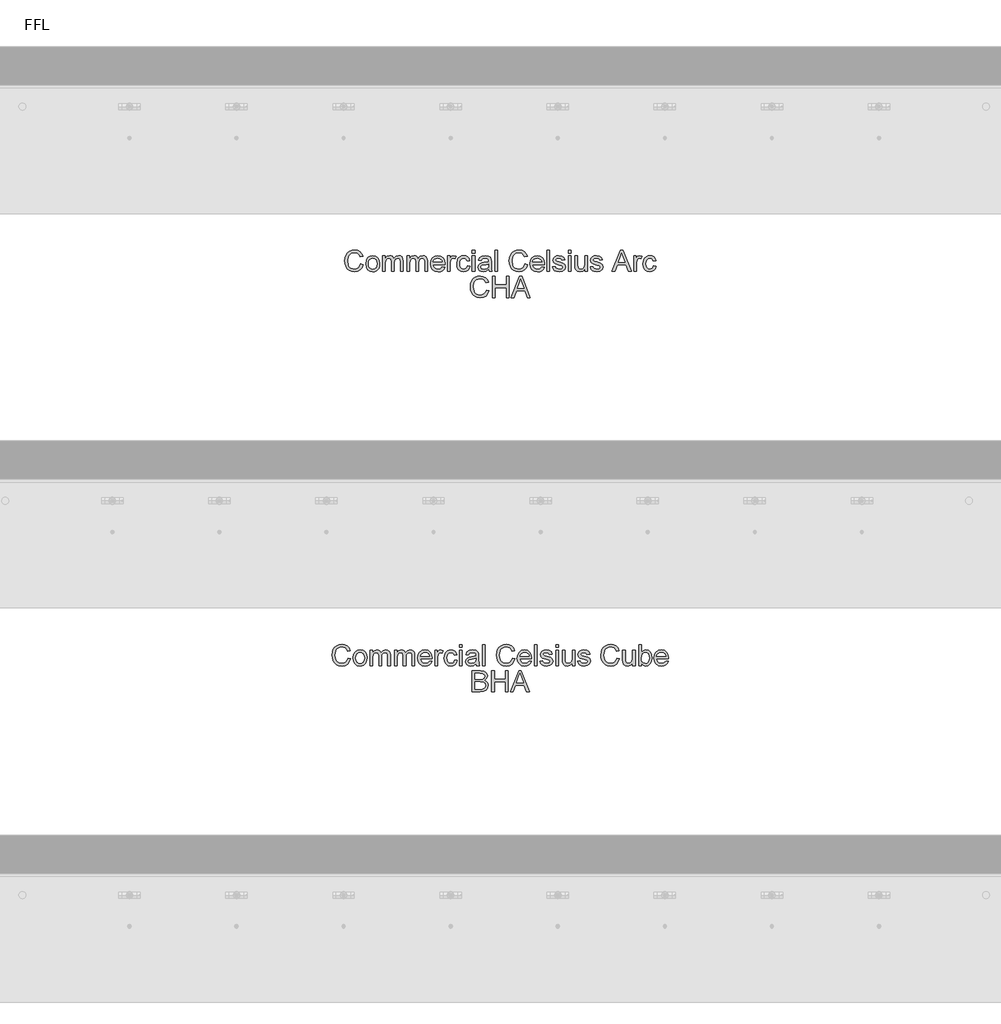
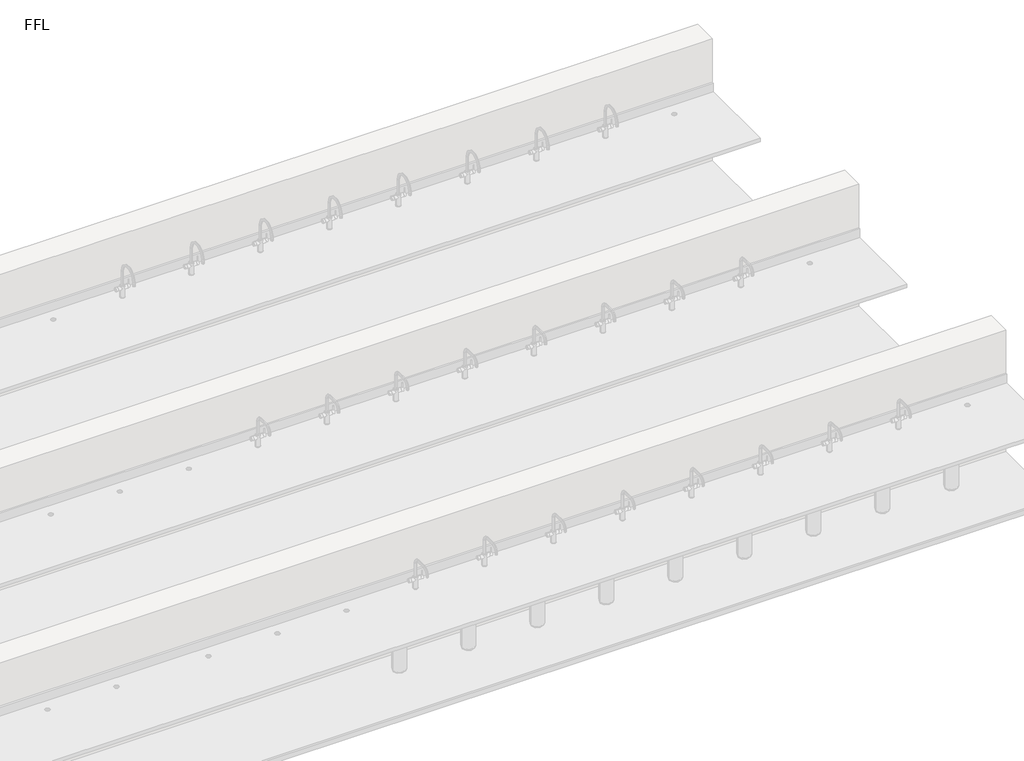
# One storey, part 8 of 9: 2 proxies.
"""IFC4 building model written with IfcOpenShell, lengths in millimetres."""

from ifc_helpers import new_model, si_unit, origin, origin_with_axes, place, context, project, spatial, polyline, outline, extrude, element, save

model = new_model("IFC4")

# Units and contexts
model_context = context("Model", 3, world=origin())
ifc_project = project(units=[si_unit("LENGTHUNIT", "METRE", prefix="MILLI")], contexts=[model_context])

# Site, building, storey
site = spatial("IfcSite", under=ifc_project)
building = spatial("IfcBuilding", under=site)
storey = spatial("IfcBuildingStorey", under=building, Name="FFL", Elevation=0.0)

# Proxies
placement = place(None, origin())
element("IfcBuildingElementProxy", 1, Name="150mm Arial", ObjectType="150mm Arial", at=placement, inside=storey, context=model_context, shape_type="SweptSolid", body=[
    extrude(outline(polyline([(6649.110861, 3836.3018309), (6667.5723994, 3831.5422155), (6659.0537696, 3810.0292948), (6645.6853802, 3794.3126482), (6628.1252841, 3784.698766), (6607.0315341, 3781.4941386), (6585.617772, 3783.9190184), (6568.6120629, 3791.1936578), (6555.5772071, 3803.065653), (6546.0760052, 3819.2826001), (6540.275224, 3838.3481049), (6538.3416302, 3858.7657732), (6540.5276278, 3880.3012299), (6547.0856206, 3898.8979847), (6557.6730605, 3913.9655929), (6571.9473994, 3924.9136097), (6588.876486, 3931.5797756), (6607.4281687, 3933.8018309), (6627.6700557, 3930.9262299), (6644.4053321, 3922.299427), (6657.1111615, 3908.4532732), (6665.2647071, 3889.9196193), (6646.8031687, 3885.5205809), (6640.4029283, 3898.9836217), (6631.6589379, 3908.2188982), (6620.4630244, 3913.5599439), (6606.7070148, 3915.3402924), (6590.8506446, 3913.3661338), (6577.8248033, 3907.4436578), (6567.9404884, 3898.1948597), (6561.5086975, 3886.2417347), (6556.8031687, 3858.8018309), (6562.3740821, 3826.9989463), (6569.4954764, 3815.1224439), (6579.7178321, 3806.6804367), (6591.9729403, 3801.6368669), (6605.1925917, 3799.955677), (6620.602748, 3802.2453405), (6633.4437937, 3809.1143309), (6643.1388057, 3820.4905328), (6649.110861, 3836.3018309)])), origin_with_axes(), (0.0, 0.0, 1.0), 5.0),
    extrude(outline(polyline([(6686.0339379, 3838.0326001), (6690.0273273, 3864.1834415), (6702.0074956, 3882.5638501), (6716.8091783, 3891.5692588), (6734.5315341, 3894.5710617), (6753.9260653, 3890.9157131), (6769.4173514, 3879.9496674), (6779.572099, 3862.5383092), (6782.9570148, 3839.5470232), (6781.4606206, 3820.8961818), (6776.9714379, 3806.6984655), (6769.6201759, 3796.0659535), (6759.5375437, 3788.1107251), (6747.5618826, 3783.1482852), (6734.5315341, 3781.4941386), (6714.9026278, 3785.1359655), (6699.4293706, 3796.0614463), (6689.3827961, 3813.8378886), (6686.0339379, 3838.0326001)]), holes=[polyline([(6704.4954764, 3838.0686578), (6706.6318946, 3821.3604246), (6713.0411494, 3809.456879), (6722.6865821, 3802.3309775), (6734.5315341, 3799.955677), (6746.3223994, 3802.3444992), (6755.9498033, 3809.5109655), (6762.3590581, 3821.5722636), (6764.4954764, 3838.6455809), (6762.3455365, 3854.8670352), (6755.8957167, 3866.6083213), (6746.2547913, 3873.7342227), (6734.5315341, 3876.1095232), (6722.6865821, 3873.7432371), (6713.0411494, 3866.644379), (6706.6318946, 3854.7678766), (6704.4954764, 3838.0686578)])]), origin_with_axes(), (0.0, 0.0, 1.0), 5.0),
    extrude(outline(polyline([(6803.7262456, 3783.8018309), (6803.7262456, 3892.2633693), (6822.1877841, 3892.2633693), (6822.1877841, 3874.4148117), (6834.8800917, 3889.0362059), (6852.9449956, 3894.5710617), (6863.2124235, 3893.1603044), (6871.4425917, 3888.9280328), (6881.610861, 3873.1167347), (6896.0159091, 3889.2074799), (6914.2070148, 3894.5710617), (6928.0847191, 3892.3399919), (6938.3476398, 3885.6467828), (6944.6892865, 3874.3111458), (6946.8031687, 3858.1527924), (6946.8031687, 3783.8018309), (6928.3416302, 3783.8018309), (6928.3416302, 3850.2201001), (6926.6288898, 3865.6347636), (6920.4269667, 3873.2249078), (6909.8800917, 3876.1095232), (6899.8785893, 3874.2615665), (6891.7250437, 3868.7176963), (6886.3028682, 3859.0993068), (6884.4954764, 3845.0277924), (6884.4954764, 3783.8018309), (6866.0339379, 3783.8018309), (6866.0339379, 3852.2753886), (6861.7611014, 3870.160004), (6856.1225797, 3874.6221434), (6847.7526879, 3876.1095232), (6834.0868225, 3872.143177), (6825.0002841, 3860.5326001), (6822.1877841, 3838.5013501), (6822.1877841, 3783.8018309), (6803.7262456, 3783.8018309)])), origin_with_axes(), (0.0, 0.0, 1.0), 5.0),
    extrude(outline(polyline([(6974.4954764, 3783.8018309), (6974.4954764, 3892.2633693), (6992.9570148, 3892.2633693), (6992.9570148, 3874.4148117), (7005.6493225, 3889.0362059), (7023.7142264, 3894.5710617), (7033.9816542, 3893.1603044), (7042.2118225, 3888.9280328), (7052.3800917, 3873.1167347), (7066.7851398, 3889.2074799), (7084.9762456, 3894.5710617), (7098.8539499, 3892.3399919), (7109.1168706, 3885.6467828), (7115.4585172, 3874.3111458), (7117.5723994, 3858.1527924), (7117.5723994, 3783.8018309), (7099.110861, 3783.8018309), (7099.110861, 3850.2201001), (7097.3981206, 3865.6347636), (7091.1961975, 3873.2249078), (7080.6493225, 3876.1095232), (7070.6478201, 3874.2615665), (7062.4942744, 3868.7176963), (7057.072099, 3859.0993068), (7055.2647071, 3845.0277924), (7055.2647071, 3783.8018309), (7036.8031687, 3783.8018309), (7036.8031687, 3852.2753886), (7032.5303321, 3870.160004), (7026.8918105, 3874.6221434), (7018.5219187, 3876.1095232), (7004.8560533, 3872.143177), (6995.7695148, 3860.5326001), (6992.9570148, 3838.5013501), (6992.9570148, 3783.8018309), (6974.4954764, 3783.8018309)])), origin_with_axes(), (0.0, 0.0, 1.0), 5.0),
    extrude(outline(polyline([(7221.2022071, 3816.1095232), (7239.3031687, 3813.8018309), (7232.7812336, 3800.1630088), (7222.3740821, 3789.9676963), (7208.3160893, 3783.612528), (7190.8416302, 3781.4941386), (7169.1799716, 3785.1494871), (7152.5123033, 3796.1155328), (7141.8842985, 3813.6801362), (7138.3416302, 3837.1311578), (7141.9203562, 3861.3709415), (7152.6565341, 3879.4989463), (7169.0988417, 3890.8030328), (7189.7959571, 3894.5710617), (7209.8485413, 3890.8120472), (7225.8716783, 3879.535004), (7236.3779884, 3861.4430568), (7239.8800917, 3837.2393309), (7239.7719187, 3832.2633693), (7156.8031687, 3832.2633693), (7159.9987816, 3818.4442588), (7167.4221591, 3808.285004), (7178.1358009, 3802.0380088), (7191.2022071, 3799.955677), (7209.3031687, 3803.8138501), (7221.2022071, 3816.1095232)]), holes=[polyline([(7156.8031687, 3850.7249078), (7221.4185533, 3850.7249078), (7218.9215581, 3860.4785136), (7214.0267264, 3867.455677), (7203.2635052, 3873.9460617), (7189.7238417, 3876.1095232), (7177.2794307, 3874.3832612), (7166.9894667, 3869.2044751), (7159.836522, 3861.1320592), (7156.8031687, 3850.7249078)])]), origin_with_axes(), (0.0, 0.0, 1.0), 5.0),
    extrude(outline(polyline([(7258.3416302, 3783.8018309), (7258.3416302, 3892.2633693), (7274.4954764, 3892.2633693), (7274.4954764, 3876.2176963), (7285.9618225, 3891.0013501), (7297.5002841, 3894.5710617), (7316.0339379, 3888.8739463), (7309.8680725, 3872.3234655), (7296.8873033, 3876.1095232), (7286.4486014, 3872.4676963), (7279.7959571, 3862.3715424), (7276.8031687, 3840.8090424), (7276.8031687, 3783.8018309), (7258.3416302, 3783.8018309)])), origin_with_axes(), (0.0, 0.0, 1.0), 5.0),
    extrude(outline(polyline([(7396.8031687, 3823.0326001), (7415.2647071, 3820.7249078), (7410.1174716, 3804.3051362), (7400.4449956, 3791.8967828), (7387.157736, 3784.0947996), (7371.1661494, 3781.4941386), (7351.5282288, 3785.1224439), (7336.1721591, 3796.0073597), (7326.2608009, 3813.6711217), (7322.9570148, 3837.6359655), (7328.6000437, 3868.3030328), (7335.7214379, 3879.8009294), (7345.7995629, 3888.0085617), (7357.8563538, 3892.9304367), (7370.9137456, 3894.5710617), (7386.5132047, 3892.3174559), (7398.9846591, 3885.5566386), (7407.931474, 3874.6491867), (7412.9570148, 3859.955677), (7394.4954764, 3857.6479847), (7385.9317744, 3871.4761097), (7371.0579764, 3876.1095232), (7359.1273874, 3873.8288742), (7349.657736, 3866.986927), (7343.478349, 3855.2140905), (7341.4185533, 3838.1407732), (7343.4332768, 3820.8375881), (7349.4774475, 3809.0241867), (7358.7758249, 3802.2228044), (7370.5531687, 3799.955677), (7380.1129643, 3801.3709415), (7387.9510052, 3805.6167347), (7393.6526278, 3812.8012299), (7396.8031687, 3823.0326001)])), origin_with_axes(), (0.0, 0.0, 1.0), 5.0),
    extrude(outline(polyline([(7431.4185533, 3913.0326001), (7431.4185533, 3931.4941386), (7449.8800917, 3931.4941386), (7449.8800917, 3913.0326001), (7431.4185533, 3913.0326001)])), origin_with_axes(), (0.0, 0.0, 1.0), 5.0),
    extrude(outline(polyline([(7431.4185533, 3783.8018309), (7431.4185533, 3892.2633693), (7449.8800917, 3892.2633693), (7449.8800917, 3783.8018309), (7431.4185533, 3783.8018309)])), origin_with_axes(), (0.0, 0.0, 1.0), 5.0),
    extrude(outline(polyline([(7546.8031687, 3797.6479847), (7528.9005244, 3785.1359655), (7509.1228802, 3781.4941386), (7493.6946951, 3783.6846434), (7482.313986, 3790.2561578), (7475.2962576, 3800.2351242), (7472.9570148, 3812.6479847), (7476.4906687, 3827.2513501), (7485.7755244, 3837.8523117), (7498.7022071, 3843.910004), (7514.6757648, 3846.6864463), (7546.6949956, 3853.0326001), (7546.8031687, 3857.143177), (7545.532135, 3865.3823597), (7541.7190341, 3870.7729847), (7533.1913898, 3874.7753886), (7521.3103802, 3876.1095232), (7502.6324956, 3872.5578405), (7493.7262456, 3859.955677), (7475.2647071, 3862.2633693), (7483.251486, 3880.2922155), (7499.3332167, 3890.8571193), (7523.6901879, 3894.5710617), (7546.063986, 3891.2898117), (7558.7022071, 3883.050629), (7564.3632648, 3870.5205809), (7565.2647071, 3854.3667347), (7565.2647071, 3831.3979847), (7566.2022071, 3799.3246674), (7569.8800917, 3783.8018309), (7551.4185533, 3783.8018309), (7546.8031687, 3797.6479847)]), holes=[polyline([(7546.8031687, 3834.5710617), (7517.0195148, 3828.910004), (7501.1361014, 3825.9172155), (7493.9425917, 3821.049427), (7491.4185533, 3813.9460617), (7496.9173514, 3803.9580809), (7513.0531687, 3799.955677), (7531.7310533, 3804.3727443), (7543.7743225, 3815.0638501), (7546.6949956, 3829.3426963), (7546.8031687, 3834.5710617)])]), origin_with_axes(), (0.0, 0.0, 1.0), 5.0),
    extrude(outline(polyline([(7590.6493225, 3783.8018309), (7590.6493225, 3931.4941386), (7609.110861, 3931.4941386), (7609.110861, 3783.8018309), (7590.6493225, 3783.8018309)])), origin_with_axes(), (0.0, 0.0, 1.0), 5.0),
    extrude(outline(polyline([(7800.6493225, 3836.3018309), (7819.110861, 3831.5422155), (7810.5922312, 3810.0292948), (7797.2238417, 3794.3126482), (7779.6637456, 3784.698766), (7758.5699956, 3781.4941386), (7737.1562336, 3783.9190184), (7720.1505244, 3791.1936578), (7707.1156687, 3803.065653), (7697.6144667, 3819.2826001), (7691.8136855, 3838.3481049), (7689.8800917, 3858.7657732), (7692.0660893, 3880.3012299), (7698.6240821, 3898.8979847), (7709.211522, 3913.9655929), (7723.485861, 3924.9136097), (7740.4149475, 3931.5797756), (7758.9666302, 3933.8018309), (7779.2085172, 3930.9262299), (7795.9437937, 3922.299427), (7808.649623, 3908.4532732), (7816.8031687, 3889.9196193), (7798.3416302, 3885.5205809), (7791.9413898, 3898.9836217), (7783.1973994, 3908.2188982), (7772.001486, 3913.5599439), (7758.2454764, 3915.3402924), (7742.3891062, 3913.3661338), (7729.3632648, 3907.4436578), (7719.4789499, 3898.1948597), (7713.0471591, 3886.2417347), (7708.3416302, 3858.8018309), (7713.9125437, 3826.9989463), (7721.0339379, 3815.1224439), (7731.2562937, 3806.6804367), (7743.5114018, 3801.6368669), (7756.7310533, 3799.955677), (7772.1412095, 3802.2453405), (7784.9822552, 3809.1143309), (7794.6772672, 3820.4905328), (7800.6493225, 3836.3018309)])), origin_with_axes(), (0.0, 0.0, 1.0), 5.0),
    extrude(outline(polyline([(7918.1252841, 3816.1095232), (7936.2262456, 3813.8018309), (7929.7043105, 3800.1630088), (7919.2971591, 3789.9676963), (7905.2391663, 3783.612528), (7887.7647071, 3781.4941386), (7866.1030485, 3785.1494871), (7849.4353802, 3796.1155328), (7838.8073754, 3813.6801362), (7835.2647071, 3837.1311578), (7838.8434331, 3861.3709415), (7849.579611, 3879.4989463), (7866.0219187, 3890.8030328), (7886.7190341, 3894.5710617), (7906.7716182, 3890.8120472), (7922.7947552, 3879.535004), (7933.3010653, 3861.4430568), (7936.8031687, 3837.2393309), (7936.6949956, 3832.2633693), (7853.7262456, 3832.2633693), (7856.9218586, 3818.4442588), (7864.345236, 3808.285004), (7875.0588778, 3802.0380088), (7888.1252841, 3799.955677), (7906.2262456, 3803.8138501), (7918.1252841, 3816.1095232)]), holes=[polyline([(7853.7262456, 3850.7249078), (7918.3416302, 3850.7249078), (7915.844635, 3860.4785136), (7910.9498033, 3867.455677), (7900.1865821, 3873.9460617), (7886.6469187, 3876.1095232), (7874.2025076, 3874.3832612), (7863.9125437, 3869.2044751), (7856.759599, 3861.1320592), (7853.7262456, 3850.7249078)])]), origin_with_axes(), (0.0, 0.0, 1.0), 5.0),
    extrude(outline(polyline([(7955.2647071, 3783.8018309), (7955.2647071, 3931.4941386), (7973.7262456, 3931.4941386), (7973.7262456, 3783.8018309), (7955.2647071, 3783.8018309)])), origin_with_axes(), (0.0, 0.0, 1.0), 5.0),
    extrude(outline(polyline([(7994.4954764, 3816.1095232), (8012.9570148, 3818.4172155), (8015.8686735, 3810.5205809), (8021.5026879, 3804.7152924), (8041.0820148, 3799.955677), (8059.9041302, 3804.3186578), (8066.0339379, 3814.5590424), (8059.8680725, 3822.8523117), (8040.8656687, 3828.1167347), (8013.0651879, 3837.1491867), (8000.9317744, 3847.6960617), (7996.8031687, 3862.5878886), (8000.1204764, 3876.3438982), (8009.1709571, 3886.8547155), (8020.907736, 3892.3174559), (8036.7911494, 3894.5710617), (8059.2550917, 3890.9472636), (8073.5339379, 3881.1395713), (8079.8800917, 3864.5710617), (8061.4185533, 3862.2633693), (8054.4774475, 3872.4496674), (8038.2334571, 3876.1095232), (8020.5651879, 3872.611927), (8015.2647071, 3864.4628886), (8017.4642264, 3859.0902924), (8024.3512456, 3855.0157732), (8040.2526879, 3851.0854847), (8067.3500437, 3842.3955809), (8079.9341783, 3832.5518309), (8084.4954764, 3816.5061578), (8079.1409091, 3798.8378886), (8063.6901879, 3786.019379), (8040.829611, 3781.4941386), (8022.2148273, 3783.675629), (8008.6300917, 3790.2201001), (7999.5615821, 3801.0554367), (7994.4954764, 3816.1095232)])), origin_with_axes(), (0.0, 0.0, 1.0), 5.0),
    extrude(outline(polyline([(8105.2647071, 3783.8018309), (8105.2647071, 3892.2633693), (8123.7262456, 3892.2633693), (8123.7262456, 3783.8018309), (8105.2647071, 3783.8018309)])), origin_with_axes(), (0.0, 0.0, 1.0), 5.0),
    extrude(outline(polyline([(8105.2647071, 3913.0326001), (8105.2647071, 3931.4941386), (8123.7262456, 3931.4941386), (8123.7262456, 3913.0326001), (8105.2647071, 3913.0326001)])), origin_with_axes(), (0.0, 0.0, 1.0), 5.0),
    extrude(outline(polyline([(8220.6493225, 3783.8018309), (8220.6493225, 3802.4436578), (8206.1901879, 3786.7315184), (8187.3320148, 3781.4941386), (8169.970236, 3785.1720232), (8157.9990821, 3794.4027924), (8152.5002841, 3807.9965424), (8151.4185533, 3825.160004), (8151.4185533, 3892.2633693), (8169.8800917, 3892.2633693), (8169.8800917, 3833.8499078), (8170.9978802, 3815.0277924), (8178.2995629, 3803.9761097), (8192.0555725, 3799.955677), (8207.470236, 3804.066254), (8217.6565341, 3815.2621674), (8220.6493225, 3835.8330809), (8220.6493225, 3892.2633693), (8239.110861, 3892.2633693), (8239.110861, 3783.8018309), (8220.6493225, 3783.8018309)])), origin_with_axes(), (0.0, 0.0, 1.0), 5.0),
    extrude(outline(polyline([(8257.5723994, 3816.1095232), (8276.0339379, 3818.4172155), (8278.9455966, 3810.5205809), (8284.579611, 3804.7152924), (8304.1589379, 3799.955677), (8322.9810533, 3804.3186578), (8329.110861, 3814.5590424), (8322.9449956, 3822.8523117), (8303.9425917, 3828.1167347), (8276.142111, 3837.1491867), (8264.0086975, 3847.6960617), (8259.8800917, 3862.5878886), (8263.1973994, 3876.3438982), (8272.2478802, 3886.8547155), (8283.9846591, 3892.3174559), (8299.8680725, 3894.5710617), (8322.3320148, 3890.9472636), (8336.610861, 3881.1395713), (8342.9570148, 3864.5710617), (8324.4954764, 3862.2633693), (8317.5543706, 3872.4496674), (8301.3103802, 3876.1095232), (8283.642111, 3872.611927), (8278.3416302, 3864.4628886), (8280.5411494, 3859.0902924), (8287.4281687, 3855.0157732), (8303.329611, 3851.0854847), (8330.4269667, 3842.3955809), (8343.0111014, 3832.5518309), (8347.5723994, 3816.5061578), (8342.2178321, 3798.8378886), (8326.767111, 3786.019379), (8303.9065341, 3781.4941386), (8285.2917504, 3783.675629), (8271.7070148, 3790.2201001), (8262.6385052, 3801.0554367), (8257.5723994, 3816.1095232)])), origin_with_axes(), (0.0, 0.0, 1.0), 5.0),
    extrude(outline(polyline([(8411.142111, 3783.8018309), (8470.0964379, 3931.4941386), (8485.8175917, 3931.4941386), (8544.7719187, 3783.8018309), (8525.2647071, 3783.8018309), (8508.3536494, 3829.955677), (8447.5243225, 3829.955677), (8430.6493225, 3783.8018309), (8411.142111, 3783.8018309)]), holes=[polyline([(8454.3031687, 3848.4172155), (8501.610861, 3848.4172155), (8488.3055725, 3884.7273117), (8477.9570148, 3913.0326001), (8468.7623033, 3887.9003886), (8454.3031687, 3848.4172155)])]), origin_with_axes(), (0.0, 0.0, 1.0), 5.0),
    extrude(outline(polyline([(8562.1877841, 3783.8018309), (8562.1877841, 3892.2633693), (8578.3416302, 3892.2633693), (8578.3416302, 3876.2176963), (8589.8079764, 3891.0013501), (8601.3464379, 3894.5710617), (8619.8800917, 3888.8739463), (8613.7142264, 3872.3234655), (8600.7334571, 3876.1095232), (8590.2947552, 3872.4676963), (8583.642111, 3862.3715424), (8580.6493225, 3840.8090424), (8580.6493225, 3783.8018309), (8562.1877841, 3783.8018309)])), origin_with_axes(), (0.0, 0.0, 1.0), 5.0),
    extrude(outline(polyline([(8700.6493225, 3823.0326001), (8719.110861, 3820.7249078), (8713.9636254, 3804.3051362), (8704.2911494, 3791.8967828), (8691.0038898, 3784.0947996), (8675.0123033, 3781.4941386), (8655.3743826, 3785.1224439), (8640.0183129, 3796.0073597), (8630.1069547, 3813.6711217), (8626.8031687, 3837.6359655), (8632.4461975, 3868.3030328), (8639.5675917, 3879.8009294), (8649.6457167, 3888.0085617), (8661.7025076, 3892.9304367), (8674.7598994, 3894.5710617), (8690.3593586, 3892.3174559), (8702.8308129, 3885.5566386), (8711.7776278, 3874.6491867), (8716.8031687, 3859.955677), (8698.3416302, 3857.6479847), (8689.7779283, 3871.4761097), (8674.9041302, 3876.1095232), (8662.9735413, 3873.8288742), (8653.5038898, 3866.986927), (8647.3245028, 3855.2140905), (8645.2647071, 3838.1407732), (8647.2794307, 3820.8375881), (8653.3236014, 3809.0241867), (8662.6219788, 3802.2228044), (8674.3993225, 3799.955677), (8683.9591182, 3801.3709415), (8691.7971591, 3805.6167347), (8697.4987816, 3812.8012299), (8700.6493225, 3823.0326001)])), origin_with_axes(), (0.0, 0.0, 1.0), 5.0),
    extrude(outline(polyline([(7529.4954764, 3653.9941386), (7547.9570148, 3649.2345232), (7539.438385, 3627.7216025), (7526.0699956, 3612.0049559), (7508.5098994, 3602.3910737), (7487.4161494, 3599.1864463), (7466.0023874, 3601.6113261), (7448.9966783, 3608.8859655), (7435.9618225, 3620.7579607), (7426.4606206, 3636.9749078), (7420.6598393, 3656.0404126), (7418.7262456, 3676.4580809), (7420.9122432, 3697.9935376), (7427.470236, 3716.5902924), (7438.0576759, 3731.6579006), (7452.3320148, 3742.6059174), (7469.2611014, 3749.2720833), (7487.8127841, 3751.4941386), (7508.0546711, 3748.6185376), (7524.7899475, 3739.9917347), (7537.4957768, 3726.1455809), (7545.6493225, 3707.611927), (7527.1877841, 3703.2128886), (7520.7875437, 3716.6759294), (7512.0435533, 3725.9112059), (7500.8476398, 3731.2522516), (7487.0916302, 3733.0326001), (7471.23526, 3731.0584415), (7458.2094187, 3725.1359655), (7448.3251038, 3715.8871674), (7441.8933129, 3703.9340424), (7437.1877841, 3676.4941386), (7442.7586975, 3644.691254), (7449.8800917, 3632.8147516), (7460.1024475, 3624.3727443), (7472.3575557, 3619.3291746), (7485.5772071, 3617.6479847), (7500.9873634, 3619.9376482), (7513.8284091, 3626.8066386), (7523.5234211, 3638.1828405), (7529.4954764, 3653.9941386)])), origin_with_axes(), (0.0, 0.0, 1.0), 5.0),
    extrude(outline(polyline([(7573.3416302, 3601.4941386), (7573.3416302, 3749.1864463), (7591.8031687, 3749.1864463), (7591.8031687, 3689.1864463), (7670.2647071, 3689.1864463), (7670.2647071, 3749.1864463), (7688.7262456, 3749.1864463), (7688.7262456, 3601.4941386), (7670.2647071, 3601.4941386), (7670.2647071, 3670.7249078), (7591.8031687, 3670.7249078), (7591.8031687, 3601.4941386), (7573.3416302, 3601.4941386)])), origin_with_axes(), (0.0, 0.0, 1.0), 5.0),
    extrude(outline(polyline([(7703.8344187, 3601.4941386), (7762.7887456, 3749.1864463), (7778.5098994, 3749.1864463), (7837.4642264, 3601.4941386), (7817.9570148, 3601.4941386), (7801.0459571, 3647.6479847), (7740.2166302, 3647.6479847), (7723.3416302, 3601.4941386), (7703.8344187, 3601.4941386)]), holes=[polyline([(7746.9954764, 3666.1095232), (7794.3031687, 3666.1095232), (7780.9978802, 3702.4196193), (7770.6493225, 3730.7249078), (7761.454611, 3705.5926963), (7746.9954764, 3666.1095232)])]), origin_with_axes(), (0.0, 0.0, 1.0), 5.0),
])
element("IfcBuildingElementProxy", 2, Name="150mm Arial", ObjectType="150mm Arial", at=placement, inside=storey, context=model_context, shape_type="SweptSolid", body=[
    extrude(outline(polyline([(6560.2647071, 1076.3018309), (6578.7262456, 1071.5422155), (6570.2076158, 1050.0292948), (6556.8392264, 1034.3126482), (6539.2791302, 1024.698766), (6518.1853802, 1021.4941386), (6496.7716182, 1023.9190184), (6479.7659091, 1031.1936578), (6466.7310533, 1043.065653), (6457.2298514, 1059.2826001), (6451.4290701, 1078.3481049), (6449.4954764, 1098.7657732), (6451.681474, 1120.3012299), (6458.2394667, 1138.8979847), (6468.8269066, 1153.9655929), (6483.1012456, 1164.9136097), (6500.0303321, 1171.5797756), (6518.5820148, 1173.8018309), (6538.8239018, 1170.9262299), (6555.5591783, 1162.299427), (6568.2650076, 1148.4532732), (6576.4185533, 1129.9196193), (6557.9570148, 1125.5205809), (6551.5567744, 1138.9836217), (6542.8127841, 1148.2188982), (6531.6168706, 1153.5599439), (6517.860861, 1155.3402924), (6502.0044908, 1153.3661338), (6488.9786494, 1147.4436578), (6479.0943345, 1138.1948597), (6472.6625437, 1126.2417347), (6467.9570148, 1098.8018309), (6473.5279283, 1066.9989463), (6480.6493225, 1055.1224439), (6490.8716783, 1046.6804367), (6503.1267865, 1041.6368669), (6516.3464379, 1039.955677), (6531.7565941, 1042.2453405), (6544.5976398, 1049.1143309), (6554.2926518, 1060.4905328), (6560.2647071, 1076.3018309)])), origin_with_axes(), (0.0, 0.0, 1.0), 5.0),
    extrude(outline(polyline([(6597.1877841, 1078.0326001), (6601.1811735, 1104.1834415), (6613.1613417, 1122.5638501), (6627.9630244, 1131.5692588), (6645.6853802, 1134.5710617), (6665.0799115, 1130.9157131), (6680.5711975, 1119.9496674), (6690.7259451, 1102.5383092), (6694.110861, 1079.5470232), (6692.6144667, 1060.8961818), (6688.1252841, 1046.6984655), (6680.774022, 1036.0659535), (6670.6913898, 1028.1107251), (6658.7157288, 1023.1482852), (6645.6853802, 1021.4941386), (6626.056474, 1025.1359655), (6610.5832167, 1036.0614463), (6600.5366422, 1053.8378886), (6597.1877841, 1078.0326001)]), holes=[polyline([(6615.6493225, 1078.0686578), (6617.7857408, 1061.3604246), (6624.1949956, 1049.456879), (6633.8404283, 1042.3309775), (6645.6853802, 1039.955677), (6657.4762456, 1042.3444992), (6667.1036494, 1049.5109655), (6673.5129042, 1061.5722636), (6675.6493225, 1078.6455809), (6673.4993826, 1094.8670352), (6667.0495629, 1106.6083213), (6657.4086374, 1113.7342227), (6645.6853802, 1116.1095232), (6633.8404283, 1113.7432371), (6624.1949956, 1106.644379), (6617.7857408, 1094.7678766), (6615.6493225, 1078.0686578)])]), origin_with_axes(), (0.0, 0.0, 1.0), 5.0),
    extrude(outline(polyline([(6714.8800917, 1023.8018309), (6714.8800917, 1132.2633693), (6733.3416302, 1132.2633693), (6733.3416302, 1114.4148117), (6746.0339379, 1129.0362059), (6764.0988417, 1134.5710617), (6774.3662696, 1133.1603044), (6782.5964379, 1128.9280328), (6792.7647071, 1113.1167347), (6807.1697552, 1129.2074799), (6825.360861, 1134.5710617), (6839.2385653, 1132.3399919), (6849.501486, 1125.6467828), (6855.8431326, 1114.3111458), (6857.9570148, 1098.1527924), (6857.9570148, 1023.8018309), (6839.4954764, 1023.8018309), (6839.4954764, 1090.2201001), (6837.782736, 1105.6347636), (6831.5808129, 1113.2249078), (6821.0339379, 1116.1095232), (6811.0324355, 1114.2615665), (6802.8788898, 1108.7176963), (6797.4567143, 1099.0993068), (6795.6493225, 1085.0277924), (6795.6493225, 1023.8018309), (6777.1877841, 1023.8018309), (6777.1877841, 1092.2753886), (6772.9149475, 1110.160004), (6767.2764259, 1114.6221434), (6758.9065341, 1116.1095232), (6745.2406687, 1112.143177), (6736.1541302, 1100.5326001), (6733.3416302, 1078.5013501), (6733.3416302, 1023.8018309), (6714.8800917, 1023.8018309)])), origin_with_axes(), (0.0, 0.0, 1.0), 5.0),
    extrude(outline(polyline([(6885.6493225, 1023.8018309), (6885.6493225, 1132.2633693), (6904.110861, 1132.2633693), (6904.110861, 1114.4148117), (6916.8031687, 1129.0362059), (6934.8680725, 1134.5710617), (6945.1355004, 1133.1603044), (6953.3656687, 1128.9280328), (6963.5339379, 1113.1167347), (6977.938986, 1129.2074799), (6996.1300917, 1134.5710617), (7010.0077961, 1132.3399919), (7020.2707167, 1125.6467828), (7026.6123634, 1114.3111458), (7028.7262456, 1098.1527924), (7028.7262456, 1023.8018309), (7010.2647071, 1023.8018309), (7010.2647071, 1090.2201001), (7008.5519667, 1105.6347636), (7002.3500437, 1113.2249078), (6991.8031687, 1116.1095232), (6981.8016663, 1114.2615665), (6973.6481206, 1108.7176963), (6968.2259451, 1099.0993068), (6966.4185533, 1085.0277924), (6966.4185533, 1023.8018309), (6947.9570148, 1023.8018309), (6947.9570148, 1092.2753886), (6943.6841783, 1110.160004), (6938.0456566, 1114.6221434), (6929.6757648, 1116.1095232), (6916.0098994, 1112.143177), (6906.923361, 1100.5326001), (6904.110861, 1078.5013501), (6904.110861, 1023.8018309), (6885.6493225, 1023.8018309)])), origin_with_axes(), (0.0, 0.0, 1.0), 5.0),
    extrude(outline(polyline([(7132.3560533, 1056.1095232), (7150.4570148, 1053.8018309), (7143.9350797, 1040.1630088), (7133.5279283, 1029.9676963), (7119.4699355, 1023.612528), (7101.9954764, 1021.4941386), (7080.3338177, 1025.1494871), (7063.6661494, 1036.1155328), (7053.0381446, 1053.6801362), (7049.4954764, 1077.1311578), (7053.0742023, 1101.3709415), (7063.8103802, 1119.4989463), (7080.2526879, 1130.8030328), (7100.9498033, 1134.5710617), (7121.0023874, 1130.8120472), (7137.0255244, 1119.535004), (7147.5318345, 1101.4430568), (7151.0339379, 1077.2393309), (7150.9257648, 1072.2633693), (7067.9570148, 1072.2633693), (7071.1526278, 1058.4442588), (7078.5760052, 1048.285004), (7089.289647, 1042.0380088), (7102.3560533, 1039.955677), (7120.4570148, 1043.8138501), (7132.3560533, 1056.1095232)]), holes=[polyline([(7067.9570148, 1090.7249078), (7132.5723994, 1090.7249078), (7130.0754042, 1100.4785136), (7125.1805725, 1107.455677), (7114.4173514, 1113.9460617), (7100.8776879, 1116.1095232), (7088.4332768, 1114.3832612), (7078.1433129, 1109.2044751), (7070.9903682, 1101.1320592), (7067.9570148, 1090.7249078)])]), origin_with_axes(), (0.0, 0.0, 1.0), 5.0),
    extrude(outline(polyline([(7169.4954764, 1023.8018309), (7169.4954764, 1132.2633693), (7185.6493225, 1132.2633693), (7185.6493225, 1116.2176963), (7197.1156687, 1131.0013501), (7208.6541302, 1134.5710617), (7227.1877841, 1128.8739463), (7221.0219187, 1112.3234655), (7208.0411494, 1116.1095232), (7197.6024475, 1112.4676963), (7190.9498033, 1102.3715424), (7187.9570148, 1080.8090424), (7187.9570148, 1023.8018309), (7169.4954764, 1023.8018309)])), origin_with_axes(), (0.0, 0.0, 1.0), 5.0),
    extrude(outline(polyline([(7307.9570148, 1063.0326001), (7326.4185533, 1060.7249078), (7321.2713177, 1044.3051362), (7311.5988417, 1031.8967828), (7298.3115821, 1024.0947996), (7282.3199956, 1021.4941386), (7262.6820749, 1025.1224439), (7247.3260052, 1036.0073597), (7237.414647, 1053.6711217), (7234.110861, 1077.6359655), (7239.7538898, 1108.3030328), (7246.8752841, 1119.8009294), (7256.9534091, 1128.0085617), (7269.0101999, 1132.9304367), (7282.0675917, 1134.5710617), (7297.6670509, 1132.3174559), (7310.1385052, 1125.5566386), (7319.0853201, 1114.6491867), (7324.110861, 1099.955677), (7305.6493225, 1097.6479847), (7297.0856206, 1111.4761097), (7282.2118225, 1116.1095232), (7270.2812336, 1113.8288742), (7260.8115821, 1106.986927), (7254.6321951, 1095.2140905), (7252.5723994, 1078.1407732), (7254.587123, 1060.8375881), (7260.6312937, 1049.0241867), (7269.9296711, 1042.2228044), (7281.7070148, 1039.955677), (7291.2668105, 1041.3709415), (7299.1048514, 1045.6167347), (7304.806474, 1052.8012299), (7307.9570148, 1063.0326001)])), origin_with_axes(), (0.0, 0.0, 1.0), 5.0),
    extrude(outline(polyline([(7342.5723994, 1153.0326001), (7342.5723994, 1171.4941386), (7361.0339379, 1171.4941386), (7361.0339379, 1153.0326001), (7342.5723994, 1153.0326001)])), origin_with_axes(), (0.0, 0.0, 1.0), 5.0),
    extrude(outline(polyline([(7342.5723994, 1023.8018309), (7342.5723994, 1132.2633693), (7361.0339379, 1132.2633693), (7361.0339379, 1023.8018309), (7342.5723994, 1023.8018309)])), origin_with_axes(), (0.0, 0.0, 1.0), 5.0),
    extrude(outline(polyline([(7457.9570148, 1037.6479847), (7440.0543706, 1025.1359655), (7420.2767264, 1021.4941386), (7404.8485413, 1023.6846434), (7393.4678321, 1030.2561578), (7386.4501038, 1040.2351242), (7384.110861, 1052.6479847), (7387.6445148, 1067.2513501), (7396.9293706, 1077.8523117), (7409.8560533, 1083.910004), (7425.829611, 1086.6864463), (7457.8488417, 1093.0326001), (7457.9570148, 1097.143177), (7456.6859812, 1105.3823597), (7452.8728802, 1110.7729847), (7444.345236, 1114.7753886), (7432.4642264, 1116.1095232), (7413.7863417, 1112.5578405), (7404.8800917, 1099.955677), (7386.4185533, 1102.2633693), (7394.4053321, 1120.2922155), (7410.4870629, 1130.8571193), (7434.8440341, 1134.5710617), (7457.2178321, 1131.2898117), (7469.8560533, 1123.050629), (7475.517111, 1110.5205809), (7476.4185533, 1094.3667347), (7476.4185533, 1071.3979847), (7477.3560533, 1039.3246674), (7481.0339379, 1023.8018309), (7462.5723994, 1023.8018309), (7457.9570148, 1037.6479847)]), holes=[polyline([(7457.9570148, 1074.5710617), (7428.173361, 1068.910004), (7412.2899475, 1065.9172155), (7405.0964379, 1061.049427), (7402.5723994, 1053.9460617), (7408.0711975, 1043.9580809), (7424.2070148, 1039.955677), (7442.8848994, 1044.3727443), (7454.9281687, 1055.0638501), (7457.8488417, 1069.3426963), (7457.9570148, 1074.5710617)])]), origin_with_axes(), (0.0, 0.0, 1.0), 5.0),
    extrude(outline(polyline([(7501.8031687, 1023.8018309), (7501.8031687, 1171.4941386), (7520.2647071, 1171.4941386), (7520.2647071, 1023.8018309), (7501.8031687, 1023.8018309)])), origin_with_axes(), (0.0, 0.0, 1.0), 5.0),
    extrude(outline(polyline([(7711.8031687, 1076.3018309), (7730.2647071, 1071.5422155), (7721.7460773, 1050.0292948), (7708.3776879, 1034.3126482), (7690.8175917, 1024.698766), (7669.7238417, 1021.4941386), (7648.3100797, 1023.9190184), (7631.3043706, 1031.1936578), (7618.2695148, 1043.065653), (7608.7683129, 1059.2826001), (7602.9675316, 1078.3481049), (7601.0339379, 1098.7657732), (7603.2199355, 1120.3012299), (7609.7779283, 1138.8979847), (7620.3653682, 1153.9655929), (7634.6397071, 1164.9136097), (7651.5687937, 1171.5797756), (7670.1204764, 1173.8018309), (7690.3623634, 1170.9262299), (7707.0976398, 1162.299427), (7719.8034691, 1148.4532732), (7727.9570148, 1129.9196193), (7709.4954764, 1125.5205809), (7703.095236, 1138.9836217), (7694.3512456, 1148.2188982), (7683.1553321, 1153.5599439), (7669.3993225, 1155.3402924), (7653.5429523, 1153.3661338), (7640.517111, 1147.4436578), (7630.6327961, 1138.1948597), (7624.2010052, 1126.2417347), (7619.4954764, 1098.8018309), (7625.0663898, 1066.9989463), (7632.1877841, 1055.1224439), (7642.4101398, 1046.6804367), (7654.665248, 1041.6368669), (7667.8848994, 1039.955677), (7683.2950557, 1042.2453405), (7696.1361014, 1049.1143309), (7705.8311134, 1060.4905328), (7711.8031687, 1076.3018309)])), origin_with_axes(), (0.0, 0.0, 1.0), 5.0),
    extrude(outline(polyline([(7829.2791302, 1056.1095232), (7847.3800917, 1053.8018309), (7840.8581566, 1040.1630088), (7830.4510052, 1029.9676963), (7816.3930124, 1023.612528), (7798.9185533, 1021.4941386), (7777.2568946, 1025.1494871), (7760.5892264, 1036.1155328), (7749.9612216, 1053.6801362), (7746.4185533, 1077.1311578), (7749.9972792, 1101.3709415), (7760.7334571, 1119.4989463), (7777.1757648, 1130.8030328), (7797.8728802, 1134.5710617), (7817.9254643, 1130.8120472), (7833.9486014, 1119.535004), (7844.4549115, 1101.4430568), (7847.9570148, 1077.2393309), (7847.8488417, 1072.2633693), (7764.8800917, 1072.2633693), (7768.0757047, 1058.4442588), (7775.4990821, 1048.285004), (7786.212724, 1042.0380088), (7799.2791302, 1039.955677), (7817.3800917, 1043.8138501), (7829.2791302, 1056.1095232)]), holes=[polyline([(7764.8800917, 1090.7249078), (7829.4954764, 1090.7249078), (7826.9984812, 1100.4785136), (7822.1036494, 1107.455677), (7811.3404283, 1113.9460617), (7797.8007648, 1116.1095232), (7785.3563538, 1114.3832612), (7775.0663898, 1109.2044751), (7767.9134451, 1101.1320592), (7764.8800917, 1090.7249078)])]), origin_with_axes(), (0.0, 0.0, 1.0), 5.0),
    extrude(outline(polyline([(7866.4185533, 1023.8018309), (7866.4185533, 1171.4941386), (7884.8800917, 1171.4941386), (7884.8800917, 1023.8018309), (7866.4185533, 1023.8018309)])), origin_with_axes(), (0.0, 0.0, 1.0), 5.0),
    extrude(outline(polyline([(7905.6493225, 1056.1095232), (7924.110861, 1058.4172155), (7927.0225196, 1050.5205809), (7932.6565341, 1044.7152924), (7952.235861, 1039.955677), (7971.0579764, 1044.3186578), (7977.1877841, 1054.5590424), (7971.0219187, 1062.8523117), (7952.0195148, 1068.1167347), (7924.2190341, 1077.1491867), (7912.0856206, 1087.6960617), (7907.9570148, 1102.5878886), (7911.2743225, 1116.3438982), (7920.3248033, 1126.8547155), (7932.0615821, 1132.3174559), (7947.9449956, 1134.5710617), (7970.4089379, 1130.9472636), (7984.6877841, 1121.1395713), (7991.0339379, 1104.5710617), (7972.5723994, 1102.2633693), (7965.6312937, 1112.4496674), (7949.3873033, 1116.1095232), (7931.7190341, 1112.611927), (7926.4185533, 1104.4628886), (7928.6180725, 1099.0902924), (7935.5050917, 1095.0157732), (7951.4065341, 1091.0854847), (7978.5038898, 1082.3955809), (7991.0880244, 1072.5518309), (7995.6493225, 1056.5061578), (7990.2947552, 1038.8378886), (7974.8440341, 1026.019379), (7951.9834571, 1021.4941386), (7933.3686735, 1023.675629), (7919.7839379, 1030.2201001), (7910.7154283, 1041.0554367), (7905.6493225, 1056.1095232)])), origin_with_axes(), (0.0, 0.0, 1.0), 5.0),
    extrude(outline(polyline([(8016.4185533, 1023.8018309), (8016.4185533, 1132.2633693), (8034.8800917, 1132.2633693), (8034.8800917, 1023.8018309), (8016.4185533, 1023.8018309)])), origin_with_axes(), (0.0, 0.0, 1.0), 5.0),
    extrude(outline(polyline([(8016.4185533, 1153.0326001), (8016.4185533, 1171.4941386), (8034.8800917, 1171.4941386), (8034.8800917, 1153.0326001), (8016.4185533, 1153.0326001)])), origin_with_axes(), (0.0, 0.0, 1.0), 5.0),
    extrude(outline(polyline([(8131.8031687, 1023.8018309), (8131.8031687, 1042.4436578), (8117.3440341, 1026.7315184), (8098.485861, 1021.4941386), (8081.1240821, 1025.1720232), (8069.1529283, 1034.4027924), (8063.6541302, 1047.9965424), (8062.5723994, 1065.160004), (8062.5723994, 1132.2633693), (8081.0339379, 1132.2633693), (8081.0339379, 1073.8499078), (8082.1517264, 1055.0277924), (8089.4534091, 1043.9761097), (8103.2094187, 1039.955677), (8118.6240821, 1044.066254), (8128.8103802, 1055.2621674), (8131.8031687, 1075.8330809), (8131.8031687, 1132.2633693), (8150.2647071, 1132.2633693), (8150.2647071, 1023.8018309), (8131.8031687, 1023.8018309)])), origin_with_axes(), (0.0, 0.0, 1.0), 5.0),
    extrude(outline(polyline([(8168.7262456, 1056.1095232), (8187.1877841, 1058.4172155), (8190.0994427, 1050.5205809), (8195.7334571, 1044.7152924), (8215.3127841, 1039.955677), (8234.1348994, 1044.3186578), (8240.2647071, 1054.5590424), (8234.0988417, 1062.8523117), (8215.0964379, 1068.1167347), (8187.2959571, 1077.1491867), (8175.1625437, 1087.6960617), (8171.0339379, 1102.5878886), (8174.3512456, 1116.3438982), (8183.4017264, 1126.8547155), (8195.1385052, 1132.3174559), (8211.0219187, 1134.5710617), (8233.485861, 1130.9472636), (8247.7647071, 1121.1395713), (8254.110861, 1104.5710617), (8235.6493225, 1102.2633693), (8228.7082167, 1112.4496674), (8212.4642264, 1116.1095232), (8194.7959571, 1112.611927), (8189.4954764, 1104.4628886), (8191.6949956, 1099.0902924), (8198.5820148, 1095.0157732), (8214.4834571, 1091.0854847), (8241.5808129, 1082.3955809), (8254.1649475, 1072.5518309), (8258.7262456, 1056.5061578), (8253.3716783, 1038.8378886), (8237.9209571, 1026.019379), (8215.0603802, 1021.4941386), (8196.4455966, 1023.675629), (8182.860861, 1030.2201001), (8173.7923514, 1041.0554367), (8168.7262456, 1056.1095232)])), origin_with_axes(), (0.0, 0.0, 1.0), 5.0),
    extrude(outline(polyline([(8443.3416302, 1076.3018309), (8461.8031687, 1071.5422155), (8453.2845389, 1050.0292948), (8439.9161494, 1034.3126482), (8422.3560533, 1024.698766), (8401.2623033, 1021.4941386), (8379.8485413, 1023.9190184), (8362.8428321, 1031.1936578), (8349.8079764, 1043.065653), (8340.3067744, 1059.2826001), (8334.5059932, 1078.3481049), (8332.5723994, 1098.7657732), (8334.758397, 1120.3012299), (8341.3163898, 1138.8979847), (8351.9038297, 1153.9655929), (8366.1781687, 1164.9136097), (8383.1072552, 1171.5797756), (8401.6589379, 1173.8018309), (8421.9008249, 1170.9262299), (8438.6361014, 1162.299427), (8451.3419307, 1148.4532732), (8459.4954764, 1129.9196193), (8441.0339379, 1125.5205809), (8434.6336975, 1138.9836217), (8425.8897071, 1148.2188982), (8414.6937937, 1153.5599439), (8400.9377841, 1155.3402924), (8385.0814139, 1153.3661338), (8372.0555725, 1147.4436578), (8362.1712576, 1138.1948597), (8355.7394667, 1126.2417347), (8351.0339379, 1098.8018309), (8356.6048514, 1066.9989463), (8363.7262456, 1055.1224439), (8373.9486014, 1046.6804367), (8386.2037095, 1041.6368669), (8399.423361, 1039.955677), (8414.8335172, 1042.2453405), (8427.6745629, 1049.1143309), (8437.3695749, 1060.4905328), (8443.3416302, 1076.3018309)])), origin_with_axes(), (0.0, 0.0, 1.0), 5.0),
    extrude(outline(polyline([(8554.110861, 1023.8018309), (8554.110861, 1042.4436578), (8539.6517264, 1026.7315184), (8520.7935533, 1021.4941386), (8503.4317744, 1025.1720232), (8491.4606206, 1034.4027924), (8485.9618225, 1047.9965424), (8484.8800917, 1065.160004), (8484.8800917, 1132.2633693), (8503.3416302, 1132.2633693), (8503.3416302, 1073.8499078), (8504.4594187, 1055.0277924), (8511.7611014, 1043.9761097), (8525.517111, 1039.955677), (8540.9317744, 1044.066254), (8551.1180725, 1055.2621674), (8554.110861, 1075.8330809), (8554.110861, 1132.2633693), (8572.5723994, 1132.2633693), (8572.5723994, 1023.8018309), (8554.110861, 1023.8018309)])), origin_with_axes(), (0.0, 0.0, 1.0), 5.0),
    extrude(outline(polyline([(8616.4185533, 1023.8018309), (8597.9570148, 1023.8018309), (8597.9570148, 1171.4941386), (8616.4185533, 1171.4941386), (8616.4185533, 1116.722504), (8629.345236, 1130.1089222), (8645.4089379, 1134.5710617), (8663.9065341, 1130.550629), (8678.2574956, 1119.2465424), (8687.0736014, 1101.6684174), (8690.2647071, 1079.6551963), (8686.9609211, 1055.0097636), (8677.0495629, 1036.674427), (8662.5047913, 1025.2892107), (8645.3007648, 1021.4941386), (8628.8855004, 1026.3889703), (8616.4185533, 1041.0734655), (8616.4185533, 1023.8018309)]), holes=[polyline([(8616.4185533, 1078.7898117), (8617.6805725, 1063.393177), (8621.4666302, 1052.972504), (8631.1391062, 1043.2098838), (8643.7142264, 1039.955677), (8654.3692744, 1042.3535136), (8663.4738417, 1049.5470232), (8669.7208369, 1061.4911338), (8671.8031687, 1078.1407732), (8669.806474, 1095.033802), (8663.8163898, 1106.8426963), (8654.9957768, 1113.7928165), (8644.5074956, 1116.1095232), (8633.8524475, 1113.7116867), (8624.7478802, 1106.518177), (8618.500885, 1094.7904126), (8616.4185533, 1078.7898117)])]), origin_with_axes(), (0.0, 0.0, 1.0), 5.0),
    extrude(outline(polyline([(8786.9714379, 1056.1095232), (8805.0723994, 1053.8018309), (8798.5504643, 1040.1630088), (8788.1433129, 1029.9676963), (8774.0853201, 1023.612528), (8756.610861, 1021.4941386), (8734.9492023, 1025.1494871), (8718.2815341, 1036.1155328), (8707.6535292, 1053.6801362), (8704.110861, 1077.1311578), (8707.6895869, 1101.3709415), (8718.4257648, 1119.4989463), (8734.8680725, 1130.8030328), (8755.5651879, 1134.5710617), (8775.617772, 1130.8120472), (8791.6409091, 1119.535004), (8802.1472191, 1101.4430568), (8805.6493225, 1077.2393309), (8805.5411494, 1072.2633693), (8722.5723994, 1072.2633693), (8725.7680124, 1058.4442588), (8733.1913898, 1048.285004), (8743.9050316, 1042.0380088), (8756.9714379, 1039.955677), (8775.0723994, 1043.8138501), (8786.9714379, 1056.1095232)]), holes=[polyline([(8722.5723994, 1090.7249078), (8787.1877841, 1090.7249078), (8784.6907889, 1100.4785136), (8779.7959571, 1107.455677), (8769.032736, 1113.9460617), (8755.4930725, 1116.1095232), (8743.0486615, 1114.3832612), (8732.7586975, 1109.2044751), (8725.6057528, 1101.1320592), (8722.5723994, 1090.7249078)])]), origin_with_axes(), (0.0, 0.0, 1.0), 5.0),
    extrude(outline(polyline([(7431.4185533, 841.4941386), (7431.4185533, 989.1864463), (7487.7767264, 989.1864463), (7515.3788898, 984.8414943), (7524.6547312, 979.3291746), (7531.6769667, 971.4821193), (7537.5723994, 952.5878886), (7532.6144667, 935.3342828), (7517.6324956, 922.2633693), (7528.0937336, 916.800629), (7535.8236014, 908.4893309), (7540.5967384, 897.8793549), (7542.1877841, 885.5205809), (7537.8428321, 865.6708213), (7527.079611, 851.5362059), (7511.0159091, 844.0362059), (7487.3440341, 841.4941386), (7431.4185533, 841.4941386)]), holes=[polyline([(7449.8800917, 929.1864463), (7483.5940341, 929.1864463), (7503.2815341, 930.7729847), (7515.126486, 937.6059174), (7519.110861, 949.6311578), (7515.3969187, 961.674427), (7504.7598994, 968.7958213), (7481.0339379, 970.7249078), (7449.8800917, 970.7249078), (7449.8800917, 929.1864463)]), polyline([(7449.8800917, 859.955677), (7487.7406687, 859.955677), (7501.4425917, 860.6768309), (7513.0351398, 864.6972636), (7520.7154283, 872.9003886), (7523.7262456, 885.3402924), (7520.1925917, 899.691254), (7508.7442744, 908.2549559), (7485.9377841, 910.7249078), (7449.8800917, 910.7249078), (7449.8800917, 859.955677)])]), origin_with_axes(), (0.0, 0.0, 1.0), 5.0),
    extrude(outline(polyline([(7567.5723994, 841.4941386), (7567.5723994, 989.1864463), (7586.0339379, 989.1864463), (7586.0339379, 929.1864463), (7664.4954764, 929.1864463), (7664.4954764, 989.1864463), (7682.9570148, 989.1864463), (7682.9570148, 841.4941386), (7664.4954764, 841.4941386), (7664.4954764, 910.7249078), (7586.0339379, 910.7249078), (7586.0339379, 841.4941386), (7567.5723994, 841.4941386)])), origin_with_axes(), (0.0, 0.0, 1.0), 5.0),
    extrude(outline(polyline([(7698.0651879, 841.4941386), (7757.0195148, 989.1864463), (7772.7406687, 989.1864463), (7831.6949956, 841.4941386), (7812.1877841, 841.4941386), (7795.2767264, 887.6479847), (7734.4473994, 887.6479847), (7717.5723994, 841.4941386), (7698.0651879, 841.4941386)]), holes=[polyline([(7741.2262456, 906.1095232), (7788.5339379, 906.1095232), (7775.2286494, 942.4196193), (7764.8800917, 970.7249078), (7755.6853802, 945.5926963), (7741.2262456, 906.1095232)])]), origin_with_axes(), (0.0, 0.0, 1.0), 5.0),
])

save(model, "model.ifc")
